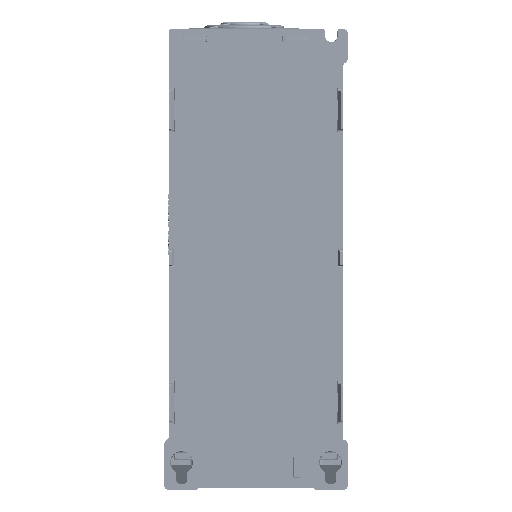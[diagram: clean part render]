
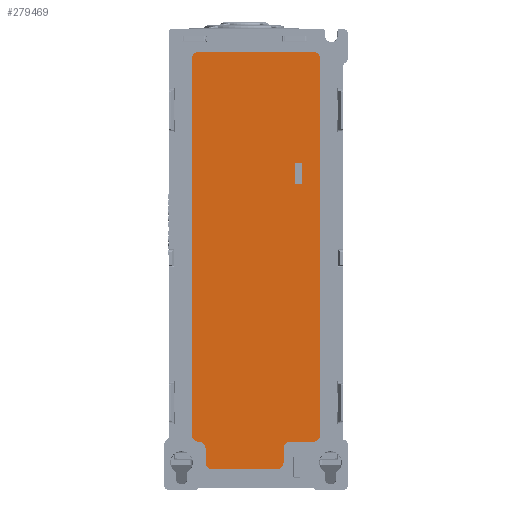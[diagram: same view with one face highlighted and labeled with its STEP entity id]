
A CAD part, front view. The second image highlights one B-rep face of the part: STEP entity #279469.
In plain terms, the highlighted planar face has unit normal (0, -1, 0).
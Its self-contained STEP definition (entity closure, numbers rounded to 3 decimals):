
#19349=FACE_BOUND('',#49786,.T.);
#22138=CIRCLE('',#298313,3.);
#22139=CIRCLE('',#298314,3.);
#22140=CIRCLE('',#298315,3.);
#22141=CIRCLE('',#298316,3.);
#22142=CIRCLE('',#298317,3.);
#22143=CIRCLE('',#298318,3.);
#22144=CIRCLE('',#298319,3.);
#22145=CIRCLE('',#298320,3.);
#33619=FACE_OUTER_BOUND('',#49785,.T.);
#49785=EDGE_LOOP('',(#230858,#230859,#230860,#230861,#230862,#230863,#230864,
#230865,#230866,#230867,#230868,#230869,#230870,#230871,#230872));
#49786=EDGE_LOOP('',(#230873,#230874,#230875,#230876));
#74657=LINE('',#458025,#102768);
#74660=LINE('',#458031,#102771);
#74661=LINE('',#458035,#102772);
#74662=LINE('',#458039,#102773);
#74663=LINE('',#458043,#102774);
#74664=LINE('',#458047,#102775);
#74665=LINE('',#458051,#102776);
#74666=LINE('',#458055,#102777);
#74667=LINE('',#458060,#102778);
#74668=LINE('',#458062,#102779);
#74669=LINE('',#458063,#102780);
#102768=VECTOR('',#349485,10.);
#102771=VECTOR('',#349490,6.);
#102772=VECTOR('',#349493,28.);
#102773=VECTOR('',#349496,6.);
#102774=VECTOR('',#349499,10.);
#102775=VECTOR('',#349502,164.);
#102776=VECTOR('',#349505,50.);
#102777=VECTOR('',#349508,164.);
#102778=VECTOR('',#349513,10.);
#102779=VECTOR('',#349514,10.);
#102780=VECTOR('',#349515,10.);
#128900=VERTEX_POINT('',#458023);
#128901=VERTEX_POINT('',#458024);
#128902=VERTEX_POINT('',#458029);
#128903=VERTEX_POINT('',#458030);
#128904=VERTEX_POINT('',#458032);
#128905=VERTEX_POINT('',#458034);
#128906=VERTEX_POINT('',#458036);
#128907=VERTEX_POINT('',#458038);
#128908=VERTEX_POINT('',#458040);
#128909=VERTEX_POINT('',#458042);
#128910=VERTEX_POINT('',#458044);
#128911=VERTEX_POINT('',#458046);
#128912=VERTEX_POINT('',#458048);
#128913=VERTEX_POINT('',#458050);
#128914=VERTEX_POINT('',#458052);
#128915=VERTEX_POINT('',#458054);
#128916=VERTEX_POINT('',#458056);
#128917=VERTEX_POINT('',#458059);
#128918=VERTEX_POINT('',#458061);
#164286=EDGE_CURVE('',#128900,#128901,#74657,.T.);
#164289=EDGE_CURVE('',#128902,#128903,#74660,.T.);
#164290=EDGE_CURVE('',#128904,#128902,#22138,.T.);
#164291=EDGE_CURVE('',#128905,#128904,#74661,.T.);
#164292=EDGE_CURVE('',#128906,#128905,#22139,.T.);
#164293=EDGE_CURVE('',#128907,#128906,#74662,.T.);
#164294=EDGE_CURVE('',#128908,#128907,#22140,.T.);
#164295=EDGE_CURVE('',#128909,#128908,#74663,.T.);
#164296=EDGE_CURVE('',#128910,#128909,#22141,.T.);
#164297=EDGE_CURVE('',#128911,#128910,#74664,.T.);
#164298=EDGE_CURVE('',#128912,#128911,#22142,.T.);
#164299=EDGE_CURVE('',#128913,#128912,#74665,.T.);
#164300=EDGE_CURVE('',#128914,#128913,#22143,.T.);
#164301=EDGE_CURVE('',#128915,#128914,#74666,.T.);
#164302=EDGE_CURVE('',#128916,#128915,#22144,.T.);
#164303=EDGE_CURVE('',#128903,#128916,#22145,.T.);
#164304=EDGE_CURVE('',#128917,#128900,#74667,.T.);
#164305=EDGE_CURVE('',#128918,#128917,#74668,.T.);
#164306=EDGE_CURVE('',#128918,#128901,#74669,.T.);
#230858=ORIENTED_EDGE('',*,*,#164289,.F.);
#230859=ORIENTED_EDGE('',*,*,#164290,.F.);
#230860=ORIENTED_EDGE('',*,*,#164291,.F.);
#230861=ORIENTED_EDGE('',*,*,#164292,.F.);
#230862=ORIENTED_EDGE('',*,*,#164293,.F.);
#230863=ORIENTED_EDGE('',*,*,#164294,.F.);
#230864=ORIENTED_EDGE('',*,*,#164295,.F.);
#230865=ORIENTED_EDGE('',*,*,#164296,.F.);
#230866=ORIENTED_EDGE('',*,*,#164297,.F.);
#230867=ORIENTED_EDGE('',*,*,#164298,.F.);
#230868=ORIENTED_EDGE('',*,*,#164299,.F.);
#230869=ORIENTED_EDGE('',*,*,#164300,.F.);
#230870=ORIENTED_EDGE('',*,*,#164301,.F.);
#230871=ORIENTED_EDGE('',*,*,#164302,.F.);
#230872=ORIENTED_EDGE('',*,*,#164303,.F.);
#230873=ORIENTED_EDGE('',*,*,#164286,.F.);
#230874=ORIENTED_EDGE('',*,*,#164304,.F.);
#230875=ORIENTED_EDGE('',*,*,#164305,.F.);
#230876=ORIENTED_EDGE('',*,*,#164306,.T.);
#266940=PLANE('',#298312);
#279469=ADVANCED_FACE('',(#33619,#19349),#266940,.T.);
#298312=AXIS2_PLACEMENT_3D('',#458028,#349488,#349489);
#298313=AXIS2_PLACEMENT_3D('',#458033,#349491,#349492);
#298314=AXIS2_PLACEMENT_3D('',#458037,#349494,#349495);
#298315=AXIS2_PLACEMENT_3D('',#458041,#349497,#349498);
#298316=AXIS2_PLACEMENT_3D('',#458045,#349500,#349501);
#298317=AXIS2_PLACEMENT_3D('',#458049,#349503,#349504);
#298318=AXIS2_PLACEMENT_3D('',#458053,#349506,#349507);
#298319=AXIS2_PLACEMENT_3D('',#458057,#349509,#349510);
#298320=AXIS2_PLACEMENT_3D('',#458058,#349511,#349512);
#349485=DIRECTION('',(1.,0.,0.));
#349488=DIRECTION('center_axis',(0.,-1.,0.));
#349489=DIRECTION('ref_axis',(1.,0.,0.));
#349490=DIRECTION('',(0.,0.,1.));
#349491=DIRECTION('center_axis',(0.,1.,0.));
#349492=DIRECTION('ref_axis',(0.,0.,-1.));
#349493=DIRECTION('',(-1.,0.,0.));
#349494=DIRECTION('center_axis',(0.,1.,0.));
#349495=DIRECTION('ref_axis',(1.,0.,0.));
#349496=DIRECTION('',(0.,0.,-1.));
#349497=DIRECTION('center_axis',(0.,-1.,0.));
#349498=DIRECTION('ref_axis',(0.,0.,1.));
#349499=DIRECTION('',(-1.,0.,0.));
#349500=DIRECTION('center_axis',(0.,1.,0.));
#349501=DIRECTION('ref_axis',(1.,0.,0.));
#349502=DIRECTION('',(0.,0.,-1.));
#349503=DIRECTION('center_axis',(0.,1.,0.));
#349504=DIRECTION('ref_axis',(0.,0.,1.));
#349505=DIRECTION('',(1.,0.,0.));
#349506=DIRECTION('center_axis',(0.,1.,0.));
#349507=DIRECTION('ref_axis',(-1.,0.,0.));
#349508=DIRECTION('',(0.,0.,1.));
#349509=DIRECTION('center_axis',(0.,1.,0.));
#349510=DIRECTION('ref_axis',(0.,0.,-1.));
#349511=DIRECTION('center_axis',(0.,-1.,0.));
#349512=DIRECTION('ref_axis',(1.,0.,0.));
#349513=DIRECTION('',(0.,0.,-1.));
#349514=DIRECTION('',(-1.,0.,0.));
#349515=DIRECTION('',(0.,0.,-1.));
#458023=CARTESIAN_POINT('',(16.834,1.,32.434));
#458024=CARTESIAN_POINT('',(19.965,1.,32.435));
#458025=CARTESIAN_POINT('',(8.424,1.,32.43));
#458028=CARTESIAN_POINT('Origin',(0.,1.,-100.));
#458029=CARTESIAN_POINT('',(-22.,1.,-89.));
#458030=CARTESIAN_POINT('',(-22.,1.,-83.));
#458031=CARTESIAN_POINT('',(-22.,1.,-89.));
#458032=CARTESIAN_POINT('',(-19.,1.,-92.));
#458033=CARTESIAN_POINT('Origin',(-19.,1.,-89.));
#458034=CARTESIAN_POINT('',(9.,1.,-92.));
#458035=CARTESIAN_POINT('',(9.,1.,-92.));
#458036=CARTESIAN_POINT('',(12.,1.,-89.));
#458037=CARTESIAN_POINT('Origin',(9.,1.,-89.));
#458038=CARTESIAN_POINT('',(12.,1.,-83.));
#458039=CARTESIAN_POINT('',(12.,1.,-83.));
#458040=CARTESIAN_POINT('',(15.,1.,-80.));
#458041=CARTESIAN_POINT('Origin',(15.,1.,-83.));
#458042=CARTESIAN_POINT('',(25.,1.,-80.));
#458043=CARTESIAN_POINT('',(25.,1.,-80.));
#458044=CARTESIAN_POINT('',(28.,1.,-77.));
#458045=CARTESIAN_POINT('Origin',(25.,1.,-77.));
#458046=CARTESIAN_POINT('',(28.,1.,87.));
#458047=CARTESIAN_POINT('',(28.,1.,87.));
#458048=CARTESIAN_POINT('',(25.,1.,90.));
#458049=CARTESIAN_POINT('Origin',(25.,1.,87.));
#458050=CARTESIAN_POINT('',(-25.,1.,90.));
#458051=CARTESIAN_POINT('',(-25.,1.,90.));
#458052=CARTESIAN_POINT('',(-28.,1.,87.));
#458053=CARTESIAN_POINT('Origin',(-25.,1.,87.));
#458054=CARTESIAN_POINT('',(-28.,1.,-77.));
#458055=CARTESIAN_POINT('',(-28.,1.,-77.));
#458056=CARTESIAN_POINT('',(-25.,1.,-80.));
#458057=CARTESIAN_POINT('Origin',(-25.,1.,-77.));
#458058=CARTESIAN_POINT('Origin',(-25.,1.,-83.));
#458059=CARTESIAN_POINT('',(16.834,1.,41.566));
#458060=CARTESIAN_POINT('',(16.834,1.,-33.75));
#458061=CARTESIAN_POINT('',(19.965,1.,41.565));
#458062=CARTESIAN_POINT('',(9.978,1.,41.569));
#458063=CARTESIAN_POINT('',(19.965,1.,-33.75));
